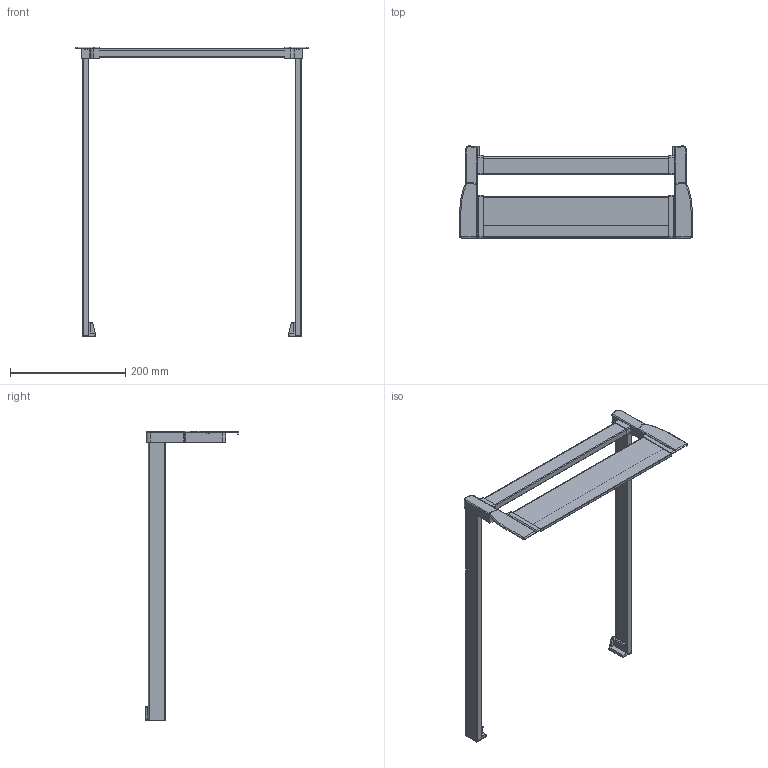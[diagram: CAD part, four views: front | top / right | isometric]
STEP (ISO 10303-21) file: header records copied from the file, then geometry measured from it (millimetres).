
FILE_DESCRIPTION (( 'STEP AP214' ), '1' );
FILE_NAME ('1_P620_NL 500_KAB 450_19er KS_.step', '2009-09-16T06:30:04', ( 'Waldinger Reinhard' ), ( 'Grass GmbH' ), 'SwSTEP 2.0', 'SolidWorks 2009', '' );
FILE_SCHEMA (( 'AUTOMOTIVE_DESIGN' ));
Length unit declared in the file: millimetre
Products named in the file (1): 1_P620_NL 500_KAB 450_19er KS_
Bounding box: 403.6 x 160.5 x 502.8 mm (x, y, z)
Volume: 807037.3 mm3; surface area: 194344.9 mm2
Topology: 1 solids, 1 shells, 220 faces, 578 edges, 364 vertices
Faces by surface type: plane 97, cylinder 91, torus 28, sphere 2, bspline 2
Entity records: 7004 total; most frequent: CARTESIAN_POINT 1345, DIRECTION 1198, ORIENTED_EDGE 1152, EDGE_CURVE 576, AXIS2_PLACEMENT_3D 433, VERTEX_POINT 364, VECTOR 332, LINE 332
